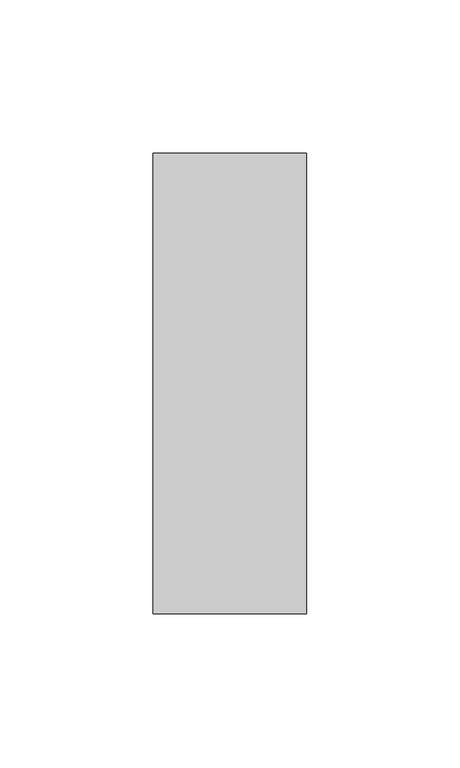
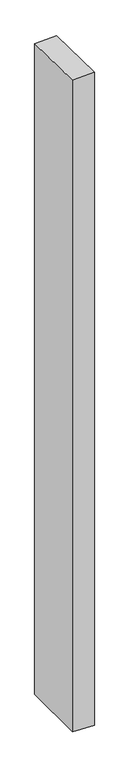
"""IFC4 building model written with IfcOpenShell, lengths in millimetres: member geometry, Прямоугольный импост : 50 x 150 мм."""

import ifcopenshell
import ifcopenshell.guid

model = None  # the IFC model being written
_history = None  # IfcOwnerHistory: only IFC2X3 demands one
_inside = {}  # id of a spatial element -> (the spatial element, [elements in it])
_under = {}  # id of a project, library or spatial element -> (it, [spatial elements below it])
_declared = {}  # id of a project -> (the project, [libraries it declares])
_typed = {}  # id of a type object -> (the type object, [elements of that type])
_made_of = {}  # id of a material, layer set ... -> (it, [elements and type objects made of it])


def new_model(schema):
    """Start an empty IFC model of exactly this schema.

    Asked for "IFC4X3", IfcOpenShell would pick the latest addendum, in which some entities
    have other attributes; the version numbers below select the first issue.
    IFC2X3 requires an IfcOwnerHistory on every rooted entity: one is made here for all.
    """
    global model, _history
    if schema == "IFC4X3":
        model = ifcopenshell.file(schema_version=(4, 3, 0, 0))
    else:
        model = ifcopenshell.file(schema=schema)
    _inside.clear()
    _under.clear()
    _declared.clear()
    _typed.clear()
    _made_of.clear()
    _history = None
    if model.schema == "IFC2X3":
        org = make("IfcOrganization", Name="unknown")
        user = make(
            "IfcPersonAndOrganization",
            ThePerson=make("IfcPerson", FamilyName="unknown"),
            TheOrganization=org,
        )
        app = make(
            "IfcApplication",
            ApplicationDeveloper=org,
            Version="unknown",
            ApplicationFullName="unknown",
            ApplicationIdentifier="unknown",
        )
        _history = make(
            "IfcOwnerHistory",
            OwningUser=user,
            OwningApplication=app,
            ChangeAction="ADDED",
            CreationDate=0,
        )
    return model


def make(cls, **values):
    """One entity of the class cls with the attributes given. An attribute that is None is left unset."""
    return model.create_entity(
        cls, **{name: value for name, value in values.items() if value is not None}
    )


def rooted(cls, **values):
    """An entity with a GlobalId (a new one), such as an element, a storey or a relation."""
    return make(cls, GlobalId=ifcopenshell.guid.new(), OwnerHistory=_history, **values)


def si_unit(unit_type, name, prefix=None):
    """IfcSIUnit, for example si_unit("LENGTHUNIT", "METRE", prefix="MILLI")."""
    return make("IfcSIUnit", UnitType=unit_type, Prefix=prefix, Name=name)


def assignment(units):
    """IfcUnitAssignment: the units of a project."""
    return None if units is None else make("IfcUnitAssignment", Units=units)


def point(xyz):
    """IfcCartesianPoint."""
    return None if xyz is None else make("IfcCartesianPoint", Coordinates=xyz)


def direction(xyz):
    """IfcDirection."""
    return None if xyz is None else make("IfcDirection", DirectionRatios=xyz)


def frame(location, z_axis=None, x_axis=None):
    """IfcAxis2Placement3D, a coordinate frame: its origin and axes. An axis left out is left unset."""
    return make(
        "IfcAxis2Placement3D",
        Location=point(location),
        Axis=direction(z_axis),
        RefDirection=direction(x_axis),
    )


def origin():
    """The frame at (0, 0, 0) with its axes left unset."""
    return frame((0.0, 0.0, 0.0))


def place(relative_to, where):
    """IfcLocalPlacement: puts the frame where relative to a parent placement (None: the world)."""
    return make(
        "IfcLocalPlacement", PlacementRelTo=relative_to, RelativePlacement=where
    )


def context(
    kind, dimensions, precision=None, world=None, true_north=None, identifier=None
):
    """IfcGeometricRepresentationContext, for example the 3D "Model" context."""
    return make(
        "IfcGeometricRepresentationContext",
        ContextIdentifier=identifier,
        ContextType=kind,
        CoordinateSpaceDimension=dimensions,
        Precision=precision,
        WorldCoordinateSystem=world,
        TrueNorth=true_north,
    )


def project(units=None, contexts=None):
    """IfcProject with its units and contexts."""
    return rooted(
        "IfcProject",
        Name="project",
        RepresentationContexts=contexts,
        UnitsInContext=assignment(units),
    )


def spatial(cls, under=None, at=None, **own):
    """A site, building, storey or space (cls), placed at a placement, below another one or the project."""
    s = rooted(cls, ObjectPlacement=at, **own)
    if under is not None:
        _under.setdefault(under.id(), (under, []))[1].append(s)
    return s


def faces_of(points, faces, orient=None, outer=None):
    """IfcFace entities. A face is a list of loops; a loop is a list of indices into points, from 0.

    orient and outer hold one flag for each loop. By default every Orientation is true, the
    first loop of a face is its IfcFaceOuterBound and the others are IfcFaceBound.
    """
    made = []
    for i, loops in enumerate(faces):
        bounds = []
        for j, loop in enumerate(loops):
            is_outer = j == 0 if outer is None else outer[i][j]
            bounds.append(
                make(
                    "IfcFaceOuterBound" if is_outer else "IfcFaceBound",
                    Bound=make("IfcPolyLoop", Polygon=[points[k] for k in loop]),
                    Orientation=True if orient is None else orient[i][j],
                )
            )
        made.append(make("IfcFace", Bounds=bounds))
    return made


def faceted_brep(points, faces, orient=None, outer=None, voids=None):
    """IfcFacetedBrep: a solid bounded by flat faces; with voids (closed shells), ...WithVoids."""
    shared = [point(p) for p in points]
    hull = make("IfcClosedShell", CfsFaces=faces_of(shared, faces, orient, outer))
    if voids is None:
        return make("IfcFacetedBrep", Outer=hull)
    return make(
        "IfcFacetedBrepWithVoids",
        Outer=hull,
        Voids=[
            make(cls, CfsFaces=faces_of(shared, fs, o, b)) for cls, fs, o, b in voids
        ],
    )


def shape(context_of_items, identifier, shape_type, items):
    """IfcShapeRepresentation: the items that make up one representation, for example the "Body"."""
    return make(
        "IfcShapeRepresentation",
        ContextOfItems=context_of_items,
        RepresentationIdentifier=identifier,
        RepresentationType=shape_type,
        Items=items,
    )


def source(mapping_origin, context_of_items, identifier, shape_type, items):
    """IfcRepresentationMap: a shape defined once, which mapped items show again and again."""
    return make(
        "IfcRepresentationMap",
        MappingOrigin=mapping_origin,
        MappedRepresentation=shape(context_of_items, identifier, shape_type, items),
    )


def transform(
    local_origin,
    x_axis=None,
    y_axis=None,
    z_axis=None,
    scale=None,
    scale2=None,
    scale3=None,
    uniform=True,
):
    """IfcCartesianTransformationOperator3D, or its non-uniform kind. x_axis, y_axis, z_axis: its Axis1, 2, 3."""
    if uniform:
        return make(
            "IfcCartesianTransformationOperator3D",
            Axis1=direction(x_axis),
            Axis2=direction(y_axis),
            LocalOrigin=point(local_origin),
            Scale=scale,
            Axis3=direction(z_axis),
        )
    return make(
        "IfcCartesianTransformationOperator3DnonUniform",
        Axis1=direction(x_axis),
        Axis2=direction(y_axis),
        LocalOrigin=point(local_origin),
        Scale=scale,
        Axis3=direction(z_axis),
        Scale2=scale2,
        Scale3=scale3,
    )


def mapped(mapping_source, mapping_target):
    """IfcMappedItem: shows the shape of a source again, moved by a transform."""
    return make(
        "IfcMappedItem", MappingSource=mapping_source, MappingTarget=mapping_target
    )


def made_of(thing, what):
    """Note that an element or type object is made of a material, layer set ...; save() writes the relation."""
    if what is not None:
        _made_of.setdefault(what.id(), (what, []))[1].append(thing)
    return thing


def element(
    cls,
    number,
    at=None,
    inside=None,
    cuts=None,
    type_object=None,
    material=None,
    context=None,
    identifier="Body",
    shape_type=None,
    held_by="IfcProductDefinitionShape",
    body=None,
    shapes=None,
    **own,
):
    """One element of the class cls, such as IfcWall. Its Tag is "e" and its number.

    at: its placement. inside: the storey or other place that contains it. cuts: it is an
    opening in that element (IfcRelVoidsElement). A single representation is given by context,
    identifier, shape_type and body (its items); several are given by shapes. held_by: the class
    of the entity that holds the representations. save() writes the other relations.
    """
    e = rooted(cls, Tag="e%d" % number, ObjectPlacement=at, **own)
    if body is not None:
        shapes = [shape(context, identifier, shape_type, body)]
    if shapes is not None:
        e.Representation = make(held_by, Representations=shapes)
    if inside is not None:
        _inside.setdefault(inside.id(), (inside, []))[1].append(e)
    if cuts is not None:
        rooted(
            "IfcRelVoidsElement", RelatingBuildingElement=cuts, RelatedOpeningElement=e
        )
    if type_object is not None:
        _typed.setdefault(type_object.id(), (type_object, []))[1].append(e)
    return made_of(e, material)


def aggregate(whole, parts):
    """IfcRelAggregates: a whole, such as a stair, and the parts it consists of."""
    return rooted("IfcRelAggregates", RelatingObject=whole, RelatedObjects=parts)


def save(model, path):
    """Write the relations noted so far, then the file.

    IfcRelAggregates (storeys below a building ...), IfcRelContainedInSpatialStructure (elements
    in a storey), IfcRelDefinesByType, IfcRelAssociatesMaterial and IfcRelDeclares: one each for
    every whole, place, type object, material and project.
    """
    for whole, parts in _under.values():
        aggregate(whole, parts)
    for where, things in _inside.values():
        rooted(
            "IfcRelContainedInSpatialStructure",
            RelatedElements=things,
            RelatingStructure=where,
        )
    for kind, things in _typed.values():
        rooted("IfcRelDefinesByType", RelatedObjects=things, RelatingType=kind)
    for what, things in _made_of.values():
        rooted("IfcRelAssociatesMaterial", RelatedObjects=things, RelatingMaterial=what)
    for by, libraries in _declared.values():
        rooted("IfcRelDeclares", RelatingContext=by, RelatedDefinitions=libraries)
    model.write(path)


def member_855a1c2d(model_context):
    return source(origin(), model_context, "Body", "Brep", [
        faceted_brep([(-25.0, 75.0, -2.0120114), (25.0, 75.0, -0.6297385), (25.0, 75.0, -1580.2549059), (-25.0, 75.0, -1578.8056387), (-25.0, -75.0, 0.6297385), (-25.0, -75.0, -1579.6586284), (25.0, -75.0, 2.0120114), (25.0, -75.0, -1581.1078956)], [[[0, 1, 2, 3]], [[4, 0, 3, 5]], [[6, 4, 5, 7]], [[1, 6, 7, 2]], [[1, 0, 4, 6]], [[2, 7, 5, 3]]]),
    ])


if __name__ == "__main__":
    model = new_model("IFC4")
    model_context = context("Model", 3, world=origin())
    ifc_project = project(units=[si_unit("LENGTHUNIT", "METRE", prefix="MILLI")], contexts=[model_context])
    site = spatial("IfcSite", under=ifc_project)
    building = spatial("IfcBuilding", under=site)
    placement = place(None, origin())
    member_shape = member_855a1c2d(model_context)
    element("IfcMember", 1, ObjectType="Прямоугольный импост : 50 x 150 мм", at=placement, inside=building, context=model_context, shape_type="MappedRepresentation", body=[
        mapped(member_shape, transform((0.0, 0.0, 0.0), x_axis=(1.0, 0.0, 0.0), y_axis=(0.0, 1.0, 0.0), z_axis=(0.0, 0.0, 1.0))),
    ])
    save(model, "model.ifc")
